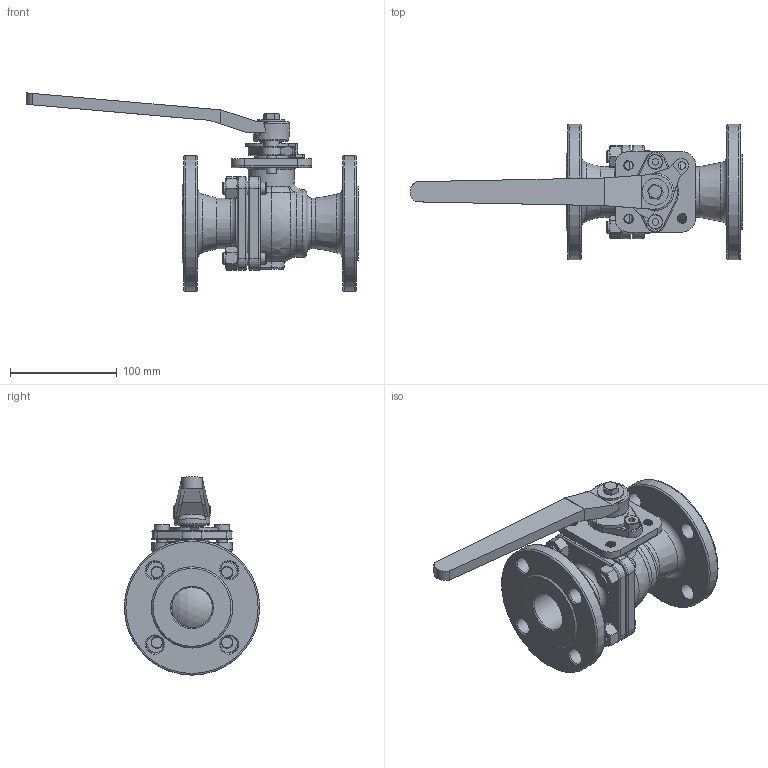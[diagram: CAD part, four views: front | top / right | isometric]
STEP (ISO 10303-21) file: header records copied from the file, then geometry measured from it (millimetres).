
FILE_DESCRIPTION(('Open CASCADE Model'),'2;1');
FILE_NAME('Open CASCADE Shape Model','2021-11-19T08:45:10',('Author'),( 'Open CASCADE'),'Open CASCADE STEP processor 7.3','Open CASCADE 7.3' ,'Unknown');
FILE_SCHEMA(('AUTOMOTIVE_DESIGN { 1 0 10303 214 1 1 1 1 }'));
Length unit declared in the file: millimetre
Products named in the file (15): Open CASCADE STEP translator 7.3 1; Open CASCADE STEP translator 7.3 1.1; Open CASCADE STEP translator 7.3 1.2; Open CASCADE STEP translator 7.3 1.3; Open CASCADE STEP translator 7.3 1.4; Open CASCADE STEP translator 7.3 1.5; Open CASCADE STEP translator 7.3 1.6; Open CASCADE STEP translator 7.3 1.7; Open CASCADE STEP translator 7.3 1.8; Open CASCADE STEP translator 7.3 1.9; Open CASCADE STEP translator 7.3 1.10; Open CASCADE STEP translator 7.3 1.11; Open CASCADE STEP translator 7.3 1.12; Open CASCADE STEP translator 7.3 1.13; Open CASCADE STEP translator 7.3 1.14
Assembly tree (14 placements, depth 2):
  Open CASCADE STEP translator 7.3 1
    Open CASCADE STEP translator 7.3 1.1
    Open CASCADE STEP translator 7.3 1.2
    Open CASCADE STEP translator 7.3 1.3
    Open CASCADE STEP translator 7.3 1.4
    Open CASCADE STEP translator 7.3 1.5
    Open CASCADE STEP translator 7.3 1.6
    Open CASCADE STEP translator 7.3 1.7
    Open CASCADE STEP translator 7.3 1.8
    Open CASCADE STEP translator 7.3 1.9
    Open CASCADE STEP translator 7.3 1.10
    Open CASCADE STEP translator 7.3 1.11
    Open CASCADE STEP translator 7.3 1.12
    Open CASCADE STEP translator 7.3 1.13
    Open CASCADE STEP translator 7.3 1.14
Bounding box: 311.28 x 127 x 185.9 mm (x, y, z)
Volume: 628719.1 mm3; surface area: 203783.7 mm2
Topology: 14 solids, 21 shells, 563 faces, 1423 edges, 921 vertices
Faces by surface type: plane 211, cylinder 160, cone 94, torus 45, bspline 43, sphere 10
Full cylindrical faces by diameter (mm): 1 x2, 4 x1, 6.9 x1, 8 x9, 8.4 x1, 9.347 x4, 9.53 x2, 10.5 x2, 11.1 x4, 12.7 x4, 14 x2, 16 x8, 20 x2, 20.4 x2, 25 x2, 25.8 x1, 32 x1, 38 x3, 40.5 x4, 43.4 x1, 47.6 x2, 54 x4, 63.6 x2, 66 x1, 67.6 x3, 74.6 x2, 79.4 x1, 127 x2
Entity records: 126639 total; most frequent: CARTESIAN_POINT 100012, DIRECTION 4337, ORIENTED_EDGE 2832, PCURVE 2832, DEFINITIONAL_REPRESENTATION 2832, LINE 2098, VECTOR 2098, EDGE_CURVE 1416
